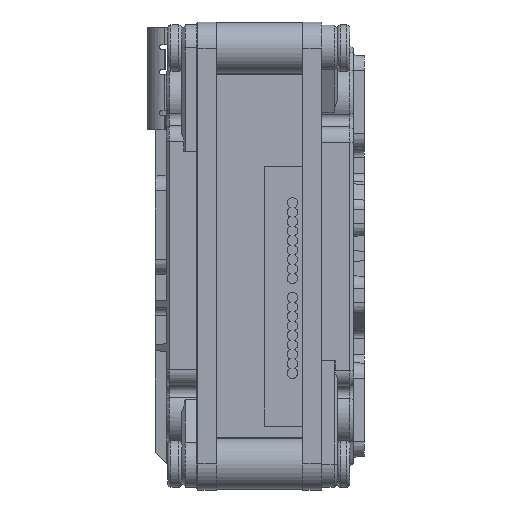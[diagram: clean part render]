
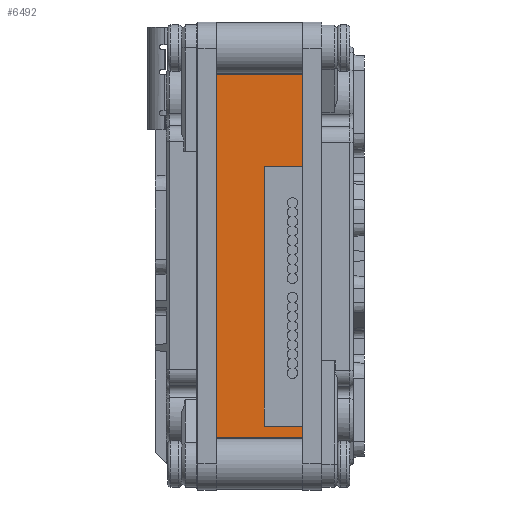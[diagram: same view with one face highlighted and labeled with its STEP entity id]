
A CAD part, left-side view. The second image highlights one B-rep face of the part: STEP entity #6492.
In plain terms, the highlighted planar face has unit normal (-1, 0, 0).
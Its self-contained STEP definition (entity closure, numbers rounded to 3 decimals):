
#599 = VERTEX_POINT ( 'NONE', #17849 ) ;
#628 = EDGE_CURVE ( 'NONE', #47363, #9311, #27325, .T. ) ;
#984 = VECTOR ( 'NONE', #49589, 1000. ) ;
#1295 = CARTESIAN_POINT ( 'NONE',  ( -12.714, -4.232, -10.788 ) ) ;
#3434 = EDGE_CURVE ( 'NONE', #599, #22941, #28190, .T. ) ;
#3749 = DIRECTION ( 'NONE',  ( 0., 0., 1. ) ) ;
#4550 = CARTESIAN_POINT ( 'NONE',  ( -12.714, -6.663, -10.788 ) ) ;
#4749 = VECTOR ( 'NONE', #39943, 1000. ) ;
#4952 = VERTEX_POINT ( 'NONE', #39245 ) ;
#5242 = VECTOR ( 'NONE', #5739, 1000. ) ;
#5343 = CARTESIAN_POINT ( 'NONE',  ( -12.714, -6.663, 5.69 ) ) ;
#5682 = VECTOR ( 'NONE', #3749, 1000. ) ;
#5739 = DIRECTION ( 'NONE',  ( 0., 0., -1. ) ) ;
#6492 = ADVANCED_FACE ( 'NONE', ( #11393 ), #54247, .F. ) ;
#7069 = EDGE_CURVE ( 'NONE', #49057, #22941, #12755, .T. ) ;
#7917 = CARTESIAN_POINT ( 'NONE',  ( -12.714, -1.2, 0. ) ) ;
#9311 = VERTEX_POINT ( 'NONE', #53127 ) ;
#9346 = CARTESIAN_POINT ( 'NONE',  ( -12.714, 34.76, -11.491 ) ) ;
#9591 = VERTEX_POINT ( 'NONE', #33541 ) ;
#9940 = ORIENTED_EDGE ( 'NONE', *, *, #53076, .F. ) ;
#10716 = VECTOR ( 'NONE', #17969, 1000. ) ;
#11393 = FACE_OUTER_BOUND ( 'NONE', #31790, .T. ) ;
#12656 = ORIENTED_EDGE ( 'NONE', *, *, #53473, .F. ) ;
#12755 = LINE ( 'NONE', #49765, #984 ) ;
#14261 = VECTOR ( 'NONE', #33221, 1000. ) ;
#14336 = EDGE_CURVE ( 'NONE', #24485, #49057, #44654, .T. ) ;
#17849 = CARTESIAN_POINT ( 'NONE',  ( -12.714, -4.232, -10.788 ) ) ;
#17969 = DIRECTION ( 'NONE',  ( 0., -1., 0. ) ) ;
#19033 = CARTESIAN_POINT ( 'NONE',  ( -12.714, 34.76, 0. ) ) ;
#20816 = EDGE_CURVE ( 'NONE', #24485, #9591, #55353, .T. ) ;
#22941 = VERTEX_POINT ( 'NONE', #40082 ) ;
#23448 = DIRECTION ( 'NONE',  ( 0., 0., -1. ) ) ;
#24485 = VERTEX_POINT ( 'NONE', #44178 ) ;
#25481 = CARTESIAN_POINT ( 'NONE',  ( -12.714, -6.663, -11.491 ) ) ;
#25966 = VECTOR ( 'NONE', #49624, 1000. ) ;
#26366 = ORIENTED_EDGE ( 'NONE', *, *, #20816, .F. ) ;
#27325 = LINE ( 'NONE', #27477, #25966 ) ;
#27477 = CARTESIAN_POINT ( 'NONE',  ( -12.714, -6.663, 5.69 ) ) ;
#28190 = LINE ( 'NONE', #4550, #4749 ) ;
#28553 = CARTESIAN_POINT ( 'NONE',  ( -12.714, 34.76, 11.491 ) ) ;
#28700 = LINE ( 'NONE', #1295, #5242 ) ;
#29153 = LINE ( 'NONE', #47814, #5682 ) ;
#31790 = EDGE_LOOP ( 'NONE', ( #55516, #12656, #32136, #48438, #9940, #26366, #43314, #33540 ) ) ;
#31829 = VECTOR ( 'NONE', #38854, 1000. ) ;
#32136 = ORIENTED_EDGE ( 'NONE', *, *, #628, .F. ) ;
#33221 = DIRECTION ( 'NONE',  ( 0., -1., 0. ) ) ;
#33540 = ORIENTED_EDGE ( 'NONE', *, *, #7069, .T. ) ;
#33541 = CARTESIAN_POINT ( 'NONE',  ( -12.714, -1.2, 11.491 ) ) ;
#38854 = DIRECTION ( 'NONE',  ( 0., 0., 1. ) ) ;
#39245 = CARTESIAN_POINT ( 'NONE',  ( -12.714, -6.663, 11.491 ) ) ;
#39943 = DIRECTION ( 'NONE',  ( 0., -1., 0. ) ) ;
#40082 = CARTESIAN_POINT ( 'NONE',  ( -12.714, -6.663, -10.788 ) ) ;
#43314 = ORIENTED_EDGE ( 'NONE', *, *, #14336, .T. ) ;
#44178 = CARTESIAN_POINT ( 'NONE',  ( -12.714, -1.2, -11.491 ) ) ;
#44654 = LINE ( 'NONE', #9346, #10716 ) ;
#47363 = VERTEX_POINT ( 'NONE', #5343 ) ;
#47814 = CARTESIAN_POINT ( 'NONE',  ( -12.714, -6.663, 0. ) ) ;
#48438 = ORIENTED_EDGE ( 'NONE', *, *, #56593, .T. ) ;
#49057 = VERTEX_POINT ( 'NONE', #25481 ) ;
#49589 = DIRECTION ( 'NONE',  ( 0., 0., 1. ) ) ;
#49624 = DIRECTION ( 'NONE',  ( 0., 1., 0. ) ) ;
#49765 = CARTESIAN_POINT ( 'NONE',  ( -12.714, -6.663, 0. ) ) ;
#50016 = DIRECTION ( 'NONE',  ( 1., 0., 0. ) ) ;
#50953 = LINE ( 'NONE', #28553, #14261 ) ;
#53076 = EDGE_CURVE ( 'NONE', #9591, #4952, #50953, .T. ) ;
#53127 = CARTESIAN_POINT ( 'NONE',  ( -12.714, -4.232, 5.69 ) ) ;
#53473 = EDGE_CURVE ( 'NONE', #9311, #599, #28700, .T. ) ;
#54247 = PLANE ( 'NONE',  #57336 ) ;
#55353 = LINE ( 'NONE', #7917, #31829 ) ;
#55516 = ORIENTED_EDGE ( 'NONE', *, *, #3434, .F. ) ;
#56593 = EDGE_CURVE ( 'NONE', #47363, #4952, #29153, .T. ) ;
#57336 = AXIS2_PLACEMENT_3D ( 'NONE', #19033, #50016, #23448 ) ;
